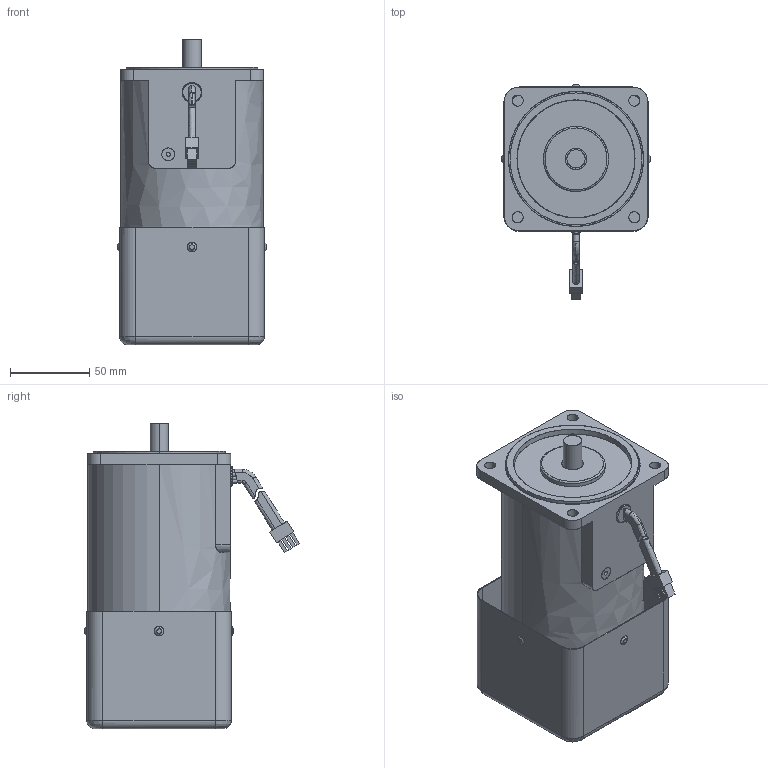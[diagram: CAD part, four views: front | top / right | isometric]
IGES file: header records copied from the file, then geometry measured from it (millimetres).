
Start section: SolidWorks IGES file using analytic representation for surfaces
Global section: file name: \\楷备家烹钦辑滚\data (D)\档搁 枚\权其捞瘤 档搁\7. SPEED INDUCTION\90\120W\(7-99) 9SDG∴-120F2P.IGS; native system: SolidWorks 2007; preprocessor: SolidWorks 2007; author: user; date: 150707.175503; units: millimetre
Bounding box: 94 x 135.4 x 192.5 mm (x, y, z)
Surface area: 175265.4 mm2 (no closed solid volume)
Topology: 0 solids, 0 shells, 394 faces, 6996 edges, 6996 vertices
Faces by surface type: revolution 238, bspline 156
